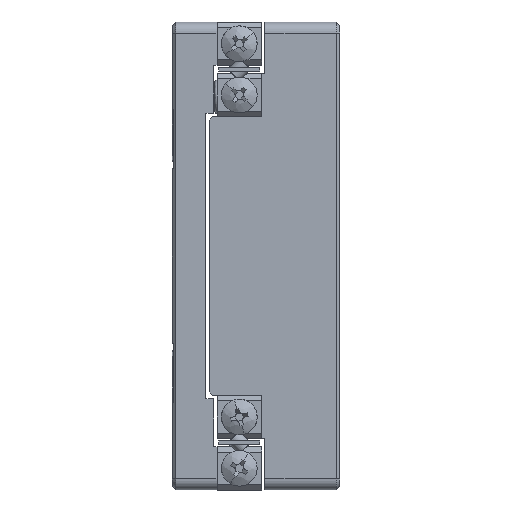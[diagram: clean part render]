
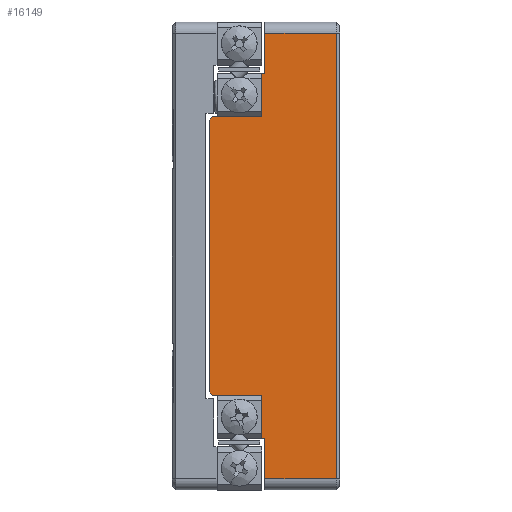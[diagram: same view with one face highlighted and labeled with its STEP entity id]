
A CAD part, left-side view. The second image highlights one B-rep face of the part: STEP entity #16149.
In plain terms, the highlighted planar face has unit normal (-1, 0, 0).
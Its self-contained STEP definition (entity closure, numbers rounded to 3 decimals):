
#310 = ORIENTED_EDGE ( 'NONE', *, *, #603, .F. ) ;
#403 = CARTESIAN_POINT ( 'NONE',  ( -26.5, 6.7, 0. ) ) ;
#603 = EDGE_CURVE ( 'NONE', #32321, #19968, #38555, .T. ) ;
#645 = VECTOR ( 'NONE', #4605, 1000. ) ;
#897 = ORIENTED_EDGE ( 'NONE', *, *, #10440, .F. ) ;
#932 = EDGE_CURVE ( 'NONE', #19968, #40977, #42245, .T. ) ;
#1375 = VECTOR ( 'NONE', #14842, 1000. ) ;
#1531 = VECTOR ( 'NONE', #30808, 1000. ) ;
#2046 = ORIENTED_EDGE ( 'NONE', *, *, #6471, .F. ) ;
#2099 = VERTEX_POINT ( 'NONE', #27747 ) ;
#3403 = EDGE_CURVE ( 'NONE', #29450, #8141, #12901, .T. ) ;
#3916 = VERTEX_POINT ( 'NONE', #33093 ) ;
#4137 = ORIENTED_EDGE ( 'NONE', *, *, #17619, .F. ) ;
#4605 = DIRECTION ( 'NONE',  ( 0., 0., 1. ) ) ;
#4884 = LINE ( 'NONE', #21594, #21787 ) ;
#5260 = CARTESIAN_POINT ( 'NONE',  ( -26.5, 11.4, 12.5 ) ) ;
#5346 = LINE ( 'NONE', #20578, #29606 ) ;
#5914 = VECTOR ( 'NONE', #20921, 1000. ) ;
#6120 = CARTESIAN_POINT ( 'NONE',  ( -26.5, 6.7, 16.4 ) ) ;
#6471 = EDGE_CURVE ( 'NONE', #27743, #33795, #5346, .T. ) ;
#6717 = DIRECTION ( 'NONE',  ( 0., 0., 1. ) ) ;
#8141 = VERTEX_POINT ( 'NONE', #6120 ) ;
#8472 = ORIENTED_EDGE ( 'NONE', *, *, #30078, .F. ) ;
#8694 = VECTOR ( 'NONE', #14339, 1000. ) ;
#8753 = VECTOR ( 'NONE', #13008, 1000. ) ;
#9018 = CARTESIAN_POINT ( 'NONE',  ( -26.5, 7., -12.5 ) ) ;
#9091 = DIRECTION ( 'NONE',  ( 0., 1., 0. ) ) ;
#9752 = LINE ( 'NONE', #27615, #8694 ) ;
#9766 = EDGE_CURVE ( 'NONE', #8141, #42851, #34152, .T. ) ;
#9823 = CARTESIAN_POINT ( 'NONE',  ( -26.5, 11.7, 21. ) ) ;
#9898 = CARTESIAN_POINT ( 'NONE',  ( -26.5, 6.7, 20. ) ) ;
#10440 = EDGE_CURVE ( 'NONE', #27648, #32321, #9752, .T. ) ;
#10490 = FACE_OUTER_BOUND ( 'NONE', #33661, .T. ) ;
#11146 = CARTESIAN_POINT ( 'NONE',  ( -26.5, 11.4, -12.5 ) ) ;
#11535 = DIRECTION ( 'NONE',  ( 0., -0.707, 0.707 ) ) ;
#11904 = LINE ( 'NONE', #21506, #1375 ) ;
#12628 = VERTEX_POINT ( 'NONE', #5260 ) ;
#12901 = LINE ( 'NONE', #34166, #28239 ) ;
#13008 = DIRECTION ( 'NONE',  ( 0., -1., 0. ) ) ;
#14170 = CARTESIAN_POINT ( 'NONE',  ( -26.5, 7., 21. ) ) ;
#14339 = DIRECTION ( 'NONE',  ( 0., 1., 0. ) ) ;
#14842 = DIRECTION ( 'NONE',  ( 0., 0., 1. ) ) ;
#15543 = CARTESIAN_POINT ( 'NONE',  ( -26.5, 7., -16.4 ) ) ;
#15817 = AXIS2_PLACEMENT_3D ( 'NONE', #9823, #19886, #33338 ) ;
#16149 = ADVANCED_FACE ( 'NONE', ( #10490 ), #20331, .F. ) ;
#16226 = CARTESIAN_POINT ( 'NONE',  ( -26.5, 7., 16.4 ) ) ;
#16492 = ORIENTED_EDGE ( 'NONE', *, *, #28580, .F. ) ;
#17619 = EDGE_CURVE ( 'NONE', #39591, #27648, #20934, .T. ) ;
#18082 = LINE ( 'NONE', #37473, #5914 ) ;
#18179 = CARTESIAN_POINT ( 'NONE',  ( -26.5, 0.3, -20. ) ) ;
#18277 = ORIENTED_EDGE ( 'NONE', *, *, #9766, .F. ) ;
#19528 = DIRECTION ( 'NONE',  ( 0., 0., -1. ) ) ;
#19886 = DIRECTION ( 'NONE',  ( 1., 0., 0. ) ) ;
#19968 = VERTEX_POINT ( 'NONE', #42857 ) ;
#20266 = VECTOR ( 'NONE', #24883, 1000. ) ;
#20331 = PLANE ( 'NONE',  #15817 ) ;
#20578 = CARTESIAN_POINT ( 'NONE',  ( -26.5, 11.7, -12.5 ) ) ;
#20921 = DIRECTION ( 'NONE',  ( 0., 0., 1. ) ) ;
#20934 = LINE ( 'NONE', #22467, #39972 ) ;
#20996 = ORIENTED_EDGE ( 'NONE', *, *, #27292, .F. ) ;
#21445 = VERTEX_POINT ( 'NONE', #35177 ) ;
#21506 = CARTESIAN_POINT ( 'NONE',  ( -26.5, 11.7, 21. ) ) ;
#21594 = CARTESIAN_POINT ( 'NONE',  ( -26.5, 11.4, 12.5 ) ) ;
#21717 = CARTESIAN_POINT ( 'NONE',  ( -26.5, 11.4, -12.5 ) ) ;
#21787 = VECTOR ( 'NONE', #11535, 1000. ) ;
#21864 = LINE ( 'NONE', #11146, #20266 ) ;
#21993 = CARTESIAN_POINT ( 'NONE',  ( -26.5, 0.3, 20. ) ) ;
#22107 = ORIENTED_EDGE ( 'NONE', *, *, #22379, .F. ) ;
#22379 = EDGE_CURVE ( 'NONE', #40977, #27743, #32889, .T. ) ;
#22467 = CARTESIAN_POINT ( 'NONE',  ( -26.5, 0.3, 21. ) ) ;
#23958 = LINE ( 'NONE', #41659, #41478 ) ;
#24883 = DIRECTION ( 'NONE',  ( 0., 0.707, 0.707 ) ) ;
#25488 = ORIENTED_EDGE ( 'NONE', *, *, #3403, .F. ) ;
#26332 = CARTESIAN_POINT ( 'NONE',  ( -26.5, 11.7, -16.4 ) ) ;
#26789 = CARTESIAN_POINT ( 'NONE',  ( -26.5, 6.7, 0. ) ) ;
#27292 = EDGE_CURVE ( 'NONE', #42851, #39591, #29322, .T. ) ;
#27615 = CARTESIAN_POINT ( 'NONE',  ( -26.5, 11.7, -20. ) ) ;
#27648 = VERTEX_POINT ( 'NONE', #18179 ) ;
#27701 = ORIENTED_EDGE ( 'NONE', *, *, #29228, .F. ) ;
#27743 = VERTEX_POINT ( 'NONE', #9018 ) ;
#27747 = CARTESIAN_POINT ( 'NONE',  ( -26.5, 11.7, -12.2 ) ) ;
#28239 = VECTOR ( 'NONE', #40380, 1000. ) ;
#28580 = EDGE_CURVE ( 'NONE', #33795, #2099, #21864, .T. ) ;
#29228 = EDGE_CURVE ( 'NONE', #21445, #12628, #4884, .T. ) ;
#29322 = LINE ( 'NONE', #43212, #8753 ) ;
#29355 = VECTOR ( 'NONE', #6717, 1000. ) ;
#29450 = VERTEX_POINT ( 'NONE', #16226 ) ;
#29606 = VECTOR ( 'NONE', #43795, 1000. ) ;
#30078 = EDGE_CURVE ( 'NONE', #12628, #3916, #23958, .T. ) ;
#30808 = DIRECTION ( 'NONE',  ( 0., 0., 1. ) ) ;
#32321 = VERTEX_POINT ( 'NONE', #38493 ) ;
#32723 = ORIENTED_EDGE ( 'NONE', *, *, #36582, .F. ) ;
#32889 = LINE ( 'NONE', #14170, #645 ) ;
#33093 = CARTESIAN_POINT ( 'NONE',  ( -26.5, 7., 12.5 ) ) ;
#33242 = VECTOR ( 'NONE', #9091, 1000. ) ;
#33338 = DIRECTION ( 'NONE',  ( 0., 0., -1. ) ) ;
#33661 = EDGE_LOOP ( 'NONE', ( #27701, #41897, #16492, #2046, #22107, #34330, #310, #897, #4137, #20996, #18277, #25488, #32723, #8472 ) ) ;
#33795 = VERTEX_POINT ( 'NONE', #21717 ) ;
#34152 = LINE ( 'NONE', #26789, #29355 ) ;
#34166 = CARTESIAN_POINT ( 'NONE',  ( -26.5, 11.7, 16.4 ) ) ;
#34330 = ORIENTED_EDGE ( 'NONE', *, *, #932, .F. ) ;
#35177 = CARTESIAN_POINT ( 'NONE',  ( -26.5, 11.7, 12.2 ) ) ;
#36582 = EDGE_CURVE ( 'NONE', #3916, #29450, #18082, .T. ) ;
#37473 = CARTESIAN_POINT ( 'NONE',  ( -26.5, 7., 21. ) ) ;
#38493 = CARTESIAN_POINT ( 'NONE',  ( -26.5, 6.7, -20. ) ) ;
#38555 = LINE ( 'NONE', #403, #1531 ) ;
#39591 = VERTEX_POINT ( 'NONE', #21993 ) ;
#39972 = VECTOR ( 'NONE', #19528, 1000. ) ;
#40380 = DIRECTION ( 'NONE',  ( 0., -1., 0. ) ) ;
#40977 = VERTEX_POINT ( 'NONE', #15543 ) ;
#41478 = VECTOR ( 'NONE', #41505, 1000. ) ;
#41505 = DIRECTION ( 'NONE',  ( 0., -1., 0. ) ) ;
#41659 = CARTESIAN_POINT ( 'NONE',  ( -26.5, 11.7, 12.5 ) ) ;
#41897 = ORIENTED_EDGE ( 'NONE', *, *, #43720, .F. ) ;
#42245 = LINE ( 'NONE', #26332, #33242 ) ;
#42851 = VERTEX_POINT ( 'NONE', #9898 ) ;
#42857 = CARTESIAN_POINT ( 'NONE',  ( -26.5, 6.7, -16.4 ) ) ;
#43212 = CARTESIAN_POINT ( 'NONE',  ( -26.5, 11.7, 20. ) ) ;
#43720 = EDGE_CURVE ( 'NONE', #2099, #21445, #11904, .T. ) ;
#43795 = DIRECTION ( 'NONE',  ( 0., 1., 0. ) ) ;
